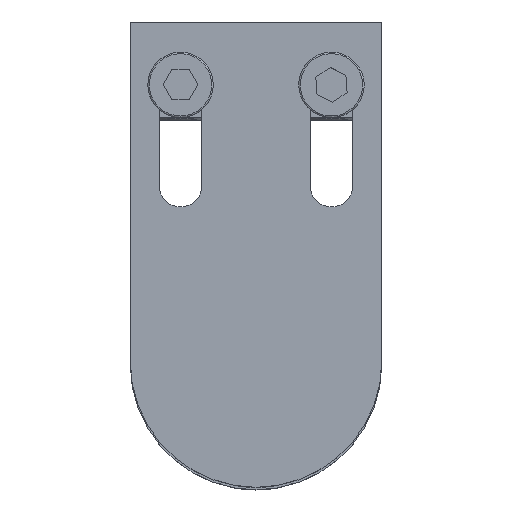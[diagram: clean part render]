
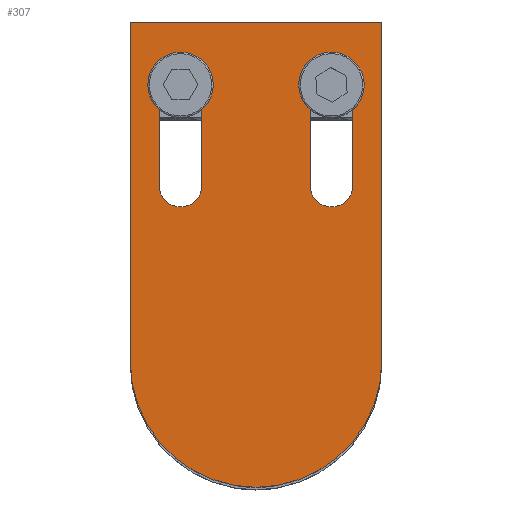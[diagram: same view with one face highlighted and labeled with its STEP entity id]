
A CAD part, top view. The second image highlights one B-rep face of the part: STEP entity #307.
In plain terms, the highlighted planar face has unit normal (0, 0, 1) as drawn and (0, 0, -1) by its records, which use the part's own axes.
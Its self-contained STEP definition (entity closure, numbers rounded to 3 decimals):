
#4 = DIRECTION ( 'NONE',  ( 1., 0., 0. ) ) ;
#101 = EDGE_CURVE ( 'NONE', #1324, #1910, #3263, .T. ) ;
#111 = VERTEX_POINT ( 'NONE', #3252 ) ;
#125 = VERTEX_POINT ( 'NONE', #349 ) ;
#149 = EDGE_CURVE ( 'NONE', #2425, #125, #2461, .T. ) ;
#282 = DIRECTION ( 'NONE',  ( 0., 0., 1. ) ) ;
#287 = ORIENTED_EDGE ( 'NONE', *, *, #852, .F. ) ;
#306 = CARTESIAN_POINT ( 'NONE',  ( 10.75, 35., -6. ) ) ;
#307 = ADVANCED_FACE ( 'NONE', ( #405, #3426, #859 ), #661, .F. ) ;
#314 = CARTESIAN_POINT ( 'NONE',  ( -10.75, 35., -6. ) ) ;
#335 = LINE ( 'NONE', #2124, #893 ) ;
#349 = CARTESIAN_POINT ( 'NONE',  ( -10.75, 55., -6. ) ) ;
#400 = VECTOR ( 'NONE', #2649, 1000. ) ;
#405 = FACE_BOUND ( 'NONE', #1484, .T. ) ;
#488 = DIRECTION ( 'NONE',  ( 0., 1., 0. ) ) ;
#573 = DIRECTION ( 'NONE',  ( 0., -1., 0. ) ) ;
#612 = CARTESIAN_POINT ( 'NONE',  ( 25., 0., -6. ) ) ;
#616 = CARTESIAN_POINT ( 'NONE',  ( 25., 67.5, -6. ) ) ;
#661 = PLANE ( 'NONE',  #1937 ) ;
#708 = ORIENTED_EDGE ( 'NONE', *, *, #3494, .T. ) ;
#788 = CARTESIAN_POINT ( 'NONE',  ( -25., 0., -6. ) ) ;
#841 = ORIENTED_EDGE ( 'NONE', *, *, #1843, .T. ) ;
#852 = EDGE_CURVE ( 'NONE', #2133, #2728, #2012, .T. ) ;
#859 = FACE_OUTER_BOUND ( 'NONE', #3651, .T. ) ;
#863 = AXIS2_PLACEMENT_3D ( 'NONE', #2418, #1127, #4107 ) ;
#883 = ORIENTED_EDGE ( 'NONE', *, *, #1094, .T. ) ;
#893 = VECTOR ( 'NONE', #488, 1000. ) ;
#898 = EDGE_CURVE ( 'NONE', #4161, #1324, #1249, .T. ) ;
#905 = VERTEX_POINT ( 'NONE', #3333 ) ;
#943 = AXIS2_PLACEMENT_3D ( 'NONE', #2048, #1443, #3765 ) ;
#953 = EDGE_LOOP ( 'NONE', ( #708, #841, #3766, #3289 ) ) ;
#1094 = EDGE_CURVE ( 'NONE', #3274, #4161, #335, .T. ) ;
#1107 = ORIENTED_EDGE ( 'NONE', *, *, #3386, .T. ) ;
#1127 = DIRECTION ( 'NONE',  ( 0., 0., 1. ) ) ;
#1188 = AXIS2_PLACEMENT_3D ( 'NONE', #3957, #3677, #2325 ) ;
#1222 = EDGE_CURVE ( 'NONE', #125, #111, #1346, .T. ) ;
#1244 = CIRCLE ( 'NONE', #2396, 25. ) ;
#1249 = CIRCLE ( 'NONE', #3447, 4.25 ) ;
#1286 = CARTESIAN_POINT ( 'NONE',  ( -25., 0., -6. ) ) ;
#1296 = EDGE_CURVE ( 'NONE', #3255, #2133, #3836, .T. ) ;
#1324 = VERTEX_POINT ( 'NONE', #3172 ) ;
#1345 = DIRECTION ( 'NONE',  ( 0., 0., 1. ) ) ;
#1346 = CIRCLE ( 'NONE', #863, 4.25 ) ;
#1438 = EDGE_CURVE ( 'NONE', #2728, #905, #1244, .T. ) ;
#1443 = DIRECTION ( 'NONE',  ( 0., 0., 1. ) ) ;
#1449 = VECTOR ( 'NONE', #3383, 1000. ) ;
#1484 = EDGE_LOOP ( 'NONE', ( #1752, #1107, #883, #1656 ) ) ;
#1536 = CARTESIAN_POINT ( 'NONE',  ( 19.25, 55., -6. ) ) ;
#1611 = CARTESIAN_POINT ( 'NONE',  ( 15., 55., -6. ) ) ;
#1613 = DIRECTION ( 'NONE',  ( 0., 0., 1. ) ) ;
#1656 = ORIENTED_EDGE ( 'NONE', *, *, #898, .T. ) ;
#1752 = ORIENTED_EDGE ( 'NONE', *, *, #101, .T. ) ;
#1843 = EDGE_CURVE ( 'NONE', #3139, #2425, #4110, .T. ) ;
#1910 = VERTEX_POINT ( 'NONE', #2743 ) ;
#1925 = CARTESIAN_POINT ( 'NONE',  ( 0., 0., -6. ) ) ;
#1937 = AXIS2_PLACEMENT_3D ( 'NONE', #3268, #1613, #2936 ) ;
#2012 = LINE ( 'NONE', #1286, #400 ) ;
#2048 = CARTESIAN_POINT ( 'NONE',  ( -15., 35., -6. ) ) ;
#2096 = LINE ( 'NONE', #3407, #1449 ) ;
#2107 = ORIENTED_EDGE ( 'NONE', *, *, #3877, .F. ) ;
#2124 = CARTESIAN_POINT ( 'NONE',  ( 19.25, 35., -6. ) ) ;
#2133 = VERTEX_POINT ( 'NONE', #3534 ) ;
#2189 = CARTESIAN_POINT ( 'NONE',  ( -19.25, 35., -6. ) ) ;
#2264 = CARTESIAN_POINT ( 'NONE',  ( 19.25, 35., -6. ) ) ;
#2325 = DIRECTION ( 'NONE',  ( -1., 0., 0. ) ) ;
#2396 = AXIS2_PLACEMENT_3D ( 'NONE', #1925, #282, #4 ) ;
#2418 = CARTESIAN_POINT ( 'NONE',  ( -15., 55., -6. ) ) ;
#2425 = VERTEX_POINT ( 'NONE', #2700 ) ;
#2461 = LINE ( 'NONE', #314, #4054 ) ;
#2474 = CARTESIAN_POINT ( 'NONE',  ( 25., 67.5, -6. ) ) ;
#2606 = DIRECTION ( 'NONE',  ( 0., 1., 0. ) ) ;
#2649 = DIRECTION ( 'NONE',  ( 0., -1., 0. ) ) ;
#2700 = CARTESIAN_POINT ( 'NONE',  ( -10.75, 35., -6. ) ) ;
#2728 = VERTEX_POINT ( 'NONE', #788 ) ;
#2743 = CARTESIAN_POINT ( 'NONE',  ( 10.75, 35., -6. ) ) ;
#2863 = ORIENTED_EDGE ( 'NONE', *, *, #1296, .F. ) ;
#2936 = DIRECTION ( 'NONE',  ( 1., 0., 0. ) ) ;
#3066 = ORIENTED_EDGE ( 'NONE', *, *, #1438, .F. ) ;
#3139 = VERTEX_POINT ( 'NONE', #2189 ) ;
#3172 = CARTESIAN_POINT ( 'NONE',  ( 10.75, 55., -6. ) ) ;
#3252 = CARTESIAN_POINT ( 'NONE',  ( -19.25, 55., -6. ) ) ;
#3255 = VERTEX_POINT ( 'NONE', #616 ) ;
#3263 = LINE ( 'NONE', #306, #3376 ) ;
#3268 = CARTESIAN_POINT ( 'NONE',  ( 0., 0., -6. ) ) ;
#3274 = VERTEX_POINT ( 'NONE', #2264 ) ;
#3289 = ORIENTED_EDGE ( 'NONE', *, *, #1222, .T. ) ;
#3312 = VECTOR ( 'NONE', #3860, 1000. ) ;
#3333 = CARTESIAN_POINT ( 'NONE',  ( 25., 0., -6. ) ) ;
#3376 = VECTOR ( 'NONE', #573, 1000. ) ;
#3383 = DIRECTION ( 'NONE',  ( 0., -1., 0. ) ) ;
#3386 = EDGE_CURVE ( 'NONE', #1910, #3274, #4146, .T. ) ;
#3407 = CARTESIAN_POINT ( 'NONE',  ( -19.25, 35., -6. ) ) ;
#3426 = FACE_BOUND ( 'NONE', #953, .T. ) ;
#3447 = AXIS2_PLACEMENT_3D ( 'NONE', #1611, #1345, #3667 ) ;
#3494 = EDGE_CURVE ( 'NONE', #111, #3139, #2096, .T. ) ;
#3534 = CARTESIAN_POINT ( 'NONE',  ( -25., 67.5, -6. ) ) ;
#3607 = DIRECTION ( 'NONE',  ( 0., 1., 0. ) ) ;
#3651 = EDGE_LOOP ( 'NONE', ( #3066, #287, #2863, #2107 ) ) ;
#3667 = DIRECTION ( 'NONE',  ( -1., 0., 0. ) ) ;
#3677 = DIRECTION ( 'NONE',  ( 0., 0., 1. ) ) ;
#3765 = DIRECTION ( 'NONE',  ( 1., 0., 0. ) ) ;
#3766 = ORIENTED_EDGE ( 'NONE', *, *, #149, .T. ) ;
#3836 = LINE ( 'NONE', #2474, #3312 ) ;
#3860 = DIRECTION ( 'NONE',  ( -1., 0., 0. ) ) ;
#3877 = EDGE_CURVE ( 'NONE', #905, #3255, #3982, .T. ) ;
#3957 = CARTESIAN_POINT ( 'NONE',  ( 15., 35., -6. ) ) ;
#3982 = LINE ( 'NONE', #612, #4193 ) ;
#4054 = VECTOR ( 'NONE', #2606, 1000. ) ;
#4107 = DIRECTION ( 'NONE',  ( 1., 0., 0. ) ) ;
#4110 = CIRCLE ( 'NONE', #943, 4.25 ) ;
#4146 = CIRCLE ( 'NONE', #1188, 4.25 ) ;
#4161 = VERTEX_POINT ( 'NONE', #1536 ) ;
#4193 = VECTOR ( 'NONE', #3607, 1000. ) ;
